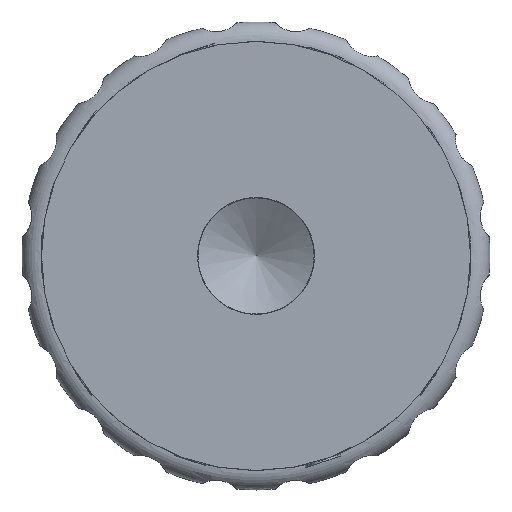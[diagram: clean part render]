
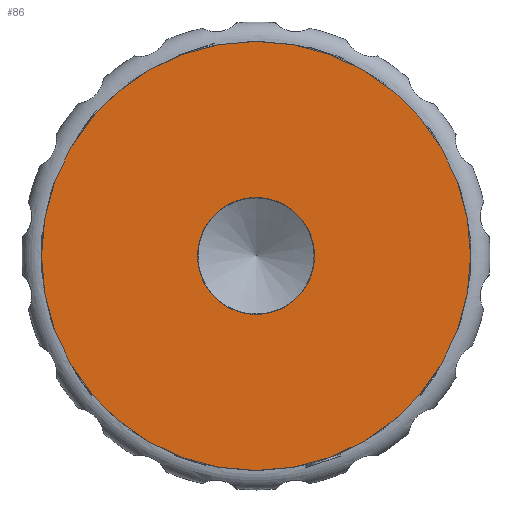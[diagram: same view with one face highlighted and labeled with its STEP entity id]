
A CAD part, left-side view. The second image highlights one B-rep face of the part: STEP entity #86.
In plain terms, the highlighted planar face has unit normal (-1, 0, 0).
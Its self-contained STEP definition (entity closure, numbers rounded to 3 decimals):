
#86 = ADVANCED_FACE( '', ( #439, #440 ), #441, .F. );
#439 = FACE_OUTER_BOUND( '', #1105, .T. );
#440 = FACE_BOUND( '', #1106, .T. );
#441 = PLANE( '', #1107 );
#1105 = EDGE_LOOP( '', ( #2011 ) );
#1106 = EDGE_LOOP( '', ( #2012 ) );
#1107 = AXIS2_PLACEMENT_3D( '', #2013, #2014, #2015 );
#2011 = ORIENTED_EDGE( '', *, *, #4336, .F. );
#2012 = ORIENTED_EDGE( '', *, *, #4461, .T. );
#2013 = CARTESIAN_POINT( '', ( 0., 3., 0. ) );
#2014 = DIRECTION( '', ( 1., 0., 0. ) );
#2015 = DIRECTION( '', ( 0., 0., -1. ) );
#4336 = EDGE_CURVE( '', #5242, #5242, #5243, .T. );
#4461 = EDGE_CURVE( '', #5492, #5492, #5493, .T. );
#5242 = VERTEX_POINT( '', #7227 );
#5243 = CIRCLE( '', #7228, 11. );
#5492 = VERTEX_POINT( '', #7673 );
#5493 = CIRCLE( '', #7674, 3. );
#7227 = CARTESIAN_POINT( '', ( 0., 0., -11. ) );
#7228 = AXIS2_PLACEMENT_3D( '', #9386, #9387, #9388 );
#7673 = CARTESIAN_POINT( '', ( 0., 0., -3. ) );
#7674 = AXIS2_PLACEMENT_3D( '', #9588, #9589, #9590 );
#9386 = CARTESIAN_POINT( '', ( 0., 0., 0. ) );
#9387 = DIRECTION( '', ( 1., 0., 0. ) );
#9388 = DIRECTION( '', ( 0., 0., -1. ) );
#9588 = CARTESIAN_POINT( '', ( 0., 0., 0. ) );
#9589 = DIRECTION( '', ( 1., 0., 0. ) );
#9590 = DIRECTION( '', ( 0., 0., -1. ) );
